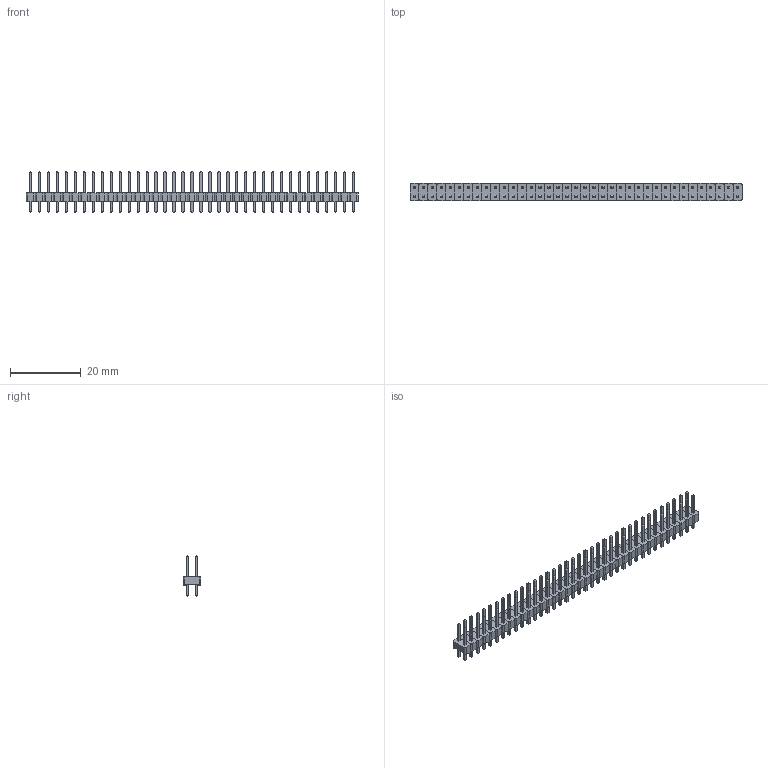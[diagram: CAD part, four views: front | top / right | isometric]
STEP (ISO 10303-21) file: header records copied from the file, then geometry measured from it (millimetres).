
FILE_DESCRIPTION(('FreeCAD Model'),'2;1');
FILE_NAME('Open CASCADE Shape Model','2022-04-06T16:10:26',( 'Engenharia Metaltex'),('Metaltex'), 'Open CASCADE STEP processor 7.5','FreeCAD','Unknown');
FILE_SCHEMA(('AUTOMOTIVE_DESIGN { 1 0 10303 214 1 1 1 1 }'));
Length unit declared in the file: millimetre
Products named in the file (149): BPDC; 37; Base036; Pino074; Pino073; 1; Base; Pino1; Pino2; 2; Base001; Pino003; Pino004; 3; Base002; Pino006; Pino005; 4; Base003; Pino008; Pino007; 5; Base004; Pino009; Pino010; 6; Base005; Pino012; Pino011; 7; Base006; Pino013; Pino014; 8; Base007; Pino015; Pino016; 9; Base008; Pino017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
Assembly tree (148 placements, depth 3):
  BPDC
    37
      Base036
      Pino074
      Pino073
    1
      Base
      Pino1
      Pino2
    2
      Base001
      Pino003
      Pino004
    3
      Base002
      Pino006
      Pino005
    4
      Base003
      Pino008
      Pino007
    5
      Base004
      Pino009
      Pino010
    6
      Base005
      Pino012
      Pino011
    7
      Base006
      Pino013
      Pino014
    8
      Base007
      Pino015
      Pino016
    9
      Base008
      Pino017
      Pino018
    10
      Base009
      Pino019
      Pino020
    11
      Base010
      Pino021
      Pino022
    12
      Base011
      Pino023
      Pino024
    13
      Base012
      Pino025
      Pino026
    14
      Base013
      Pino027
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Bounding box: 93.98 x 5.08 x 11.54 mm (x, y, z)
Volume: 1292.1 mm3; surface area: 4759.4 mm2
Topology: 111 solids, 111 shells, 1850 faces, 4292 edges, 2664 vertices
Faces by surface type: plane 1702, cylinder 148
Entity records: 111019 total; most frequent: CARTESIAN_POINT 18427, DIRECTION 17022, LINE 12284, VECTOR 12284, ORIENTED_EDGE 8584, PCURVE 8584, DEFINITIONAL_REPRESENTATION 8584, EDGE_CURVE 4292
